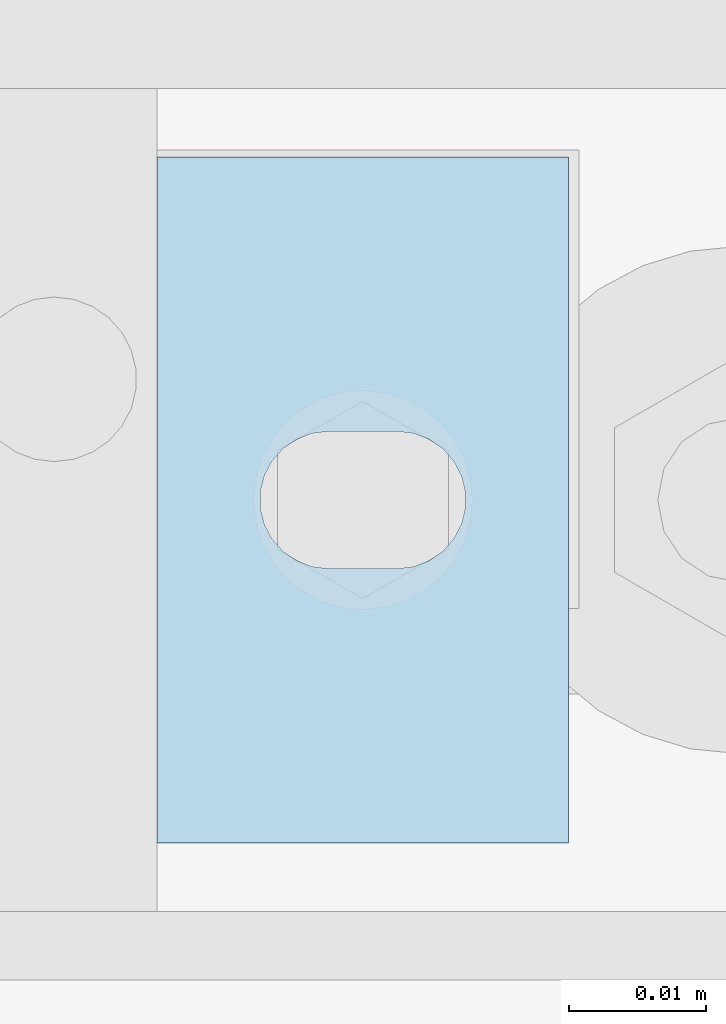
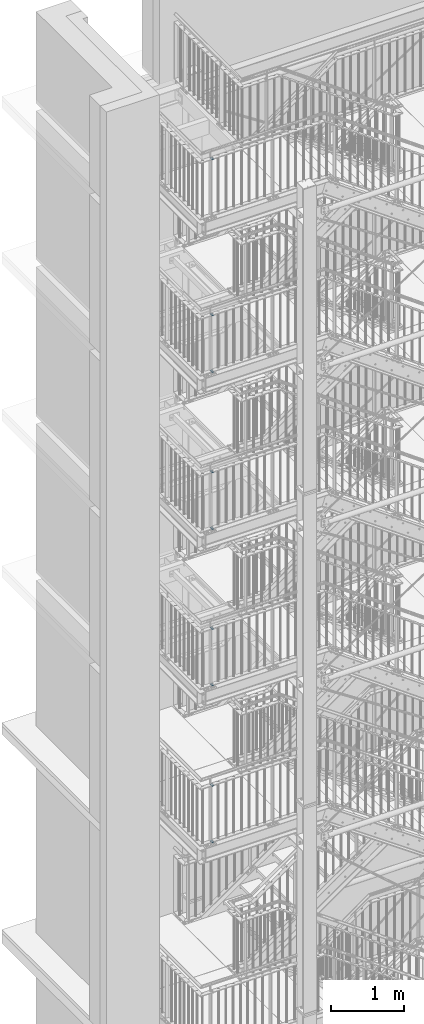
# One storey, part 221 of 831: 9 plates, 9 openings.
"""IFC2X3 building model written with IfcOpenShell, lengths in millimetres."""

from ifc_helpers import new_model, entity, si_unit, converted_unit, point, frame, frame_2d, origin, origin_with_axes, place, context, project, spatial, polyline, circle_curve, line_curve, trimmed, segment, composite_curve, outline, extrude, material, layer, layer_set, element, save


model = new_model("IFC2X3")

# Units and contexts
model_context = context("Model", 3, precision=1e-09, world=origin_with_axes())
ifc_project = project(units=[si_unit("LENGTHUNIT", "METRE", prefix="MILLI"), si_unit("AREAUNIT", "SQUARE_METRE"), si_unit("VOLUMEUNIT", "CUBIC_METRE"), converted_unit("PLANEANGLEUNIT", "DEGREE", entity("IfcPlaneAngleMeasure", 0.01745329), si_unit("PLANEANGLEUNIT", "RADIAN"), dimensions=[0, 0, 0, 0, 0, 0, 0])], contexts=[model_context])

# Site, building, storey
site_placement = place(None, origin_with_axes())
site = spatial("IfcSite", under=ifc_project, at=site_placement, Name="Site", CompositionType="ELEMENT")
building_placement = place(site_placement, origin_with_axes())
building = spatial("IfcBuilding", under=site, at=building_placement, Name="Struktur 1", CompositionType="ELEMENT")
storey_placement = place(building_placement, origin_with_axes())
storey = spatial("IfcBuildingStorey", under=building, at=storey_placement, Name="Default Storey", CompositionType="ELEMENT", Elevation=0.0)

# Plate, opening
ifc_material = material(Name="S235JR")
ifc_layer = layer(ifc_material, 6.0)
ifc_layer_set = layer_set([ifc_layer], Name="S235JR")
plate_1_placement = place(None, frame((3447.29154585, 4526.736971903, 18836.8), z_axis=(0.0, 0.0, 1.0), x_axis=(1.0, 0.0, 0.0)))
plate_1 = element("IfcPlate", 1, at=plate_1_placement, inside=storey, material=ifc_layer_set, Name="-", ObjectType="-", context=model_context, shape_type="SweptSolid", body=[
    extrude(outline(polyline([(-15.0, -25.0), (15.0, -25.0), (15.0, 25.0), (-15.0, 25.0), (-15.0, -25.0)])), origin_with_axes(), (0.0, 0.0, 1.0), 6.0),
])
opening_1_placement = place(plate_1_placement, frame((-1e-09, 0.0, -0.5), z_axis=(0.0, 0.0, 1.0), x_axis=(1.0, 0.0, 0.0)))
element("IfcOpeningElement", 2, at=opening_1_placement, cuts=plate_1, ObjectType="Opening", context=model_context, shape_type="SweptSolid", body=[
    extrude(outline(composite_curve([segment(trimmed(line_curve((-2.5, -5.001), (1.0, 0.0), 5.0), [point((-2.5, -5.001))], [point((2.5, -5.001))], True, "CARTESIAN"), True, "CONTINUOUS"), segment(trimmed(circle_curve(frame_2d((2.5, 0.0), x_axis=(1.0, 0.0)), 5.001), [point((2.5, -5.001))], [point((2.5, 5.001))], True, "CARTESIAN"), True, "CONTINUOUS"), segment(trimmed(line_curve((2.5, 5.001), (-1.0, 0.0), 5.0), [point((2.5, 5.001))], [point((-2.5, 5.001))], True, "CARTESIAN"), True, "CONTINUOUS"), segment(trimmed(circle_curve(frame_2d((-2.5, 0.0), x_axis=(1.0, 0.0)), 5.001), [point((-2.5, 5.001))], [point((-2.5, -5.001))], True, "CARTESIAN"), True, "CONTINUOUS")], self_intersect=False)), origin(), (0.0, 0.0, 1.0), 7.0),
])

plate_2_placement = place(None, frame((3447.29154585, 4526.736971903, 16216.8), z_axis=(0.0, 0.0, 1.0), x_axis=(1.0, 0.0, 0.0)))
plate_2 = element("IfcPlate", 3, at=plate_2_placement, inside=storey, material=ifc_layer_set, Name="-", ObjectType="-", context=model_context, shape_type="SweptSolid", body=[
    extrude(outline(polyline([(-15.0, -25.0), (15.0, -25.0), (15.0, 25.0), (-15.0, 25.0), (-15.0, -25.0)])), origin_with_axes(), (0.0, 0.0, 1.0), 6.0),
])
opening_2_placement = place(plate_2_placement, frame((-1e-09, 0.0, -0.5), z_axis=(0.0, 0.0, 1.0), x_axis=(1.0, 0.0, 0.0)))
element("IfcOpeningElement", 4, at=opening_2_placement, cuts=plate_2, ObjectType="Opening", context=model_context, shape_type="SweptSolid", body=[
    extrude(outline(composite_curve([segment(trimmed(line_curve((-2.5, -5.001), (1.0, 0.0), 5.0), [point((-2.5, -5.001))], [point((2.5, -5.001))], True, "CARTESIAN"), True, "CONTINUOUS"), segment(trimmed(circle_curve(frame_2d((2.5, 0.0), x_axis=(1.0, 0.0)), 5.001), [point((2.5, -5.001))], [point((2.5, 5.001))], True, "CARTESIAN"), True, "CONTINUOUS"), segment(trimmed(line_curve((2.5, 5.001), (-1.0, 0.0), 5.0), [point((2.5, 5.001))], [point((-2.5, 5.001))], True, "CARTESIAN"), True, "CONTINUOUS"), segment(trimmed(circle_curve(frame_2d((-2.5, 0.0), x_axis=(1.0, 0.0)), 5.001), [point((-2.5, 5.001))], [point((-2.5, -5.001))], True, "CARTESIAN"), True, "CONTINUOUS")], self_intersect=False)), origin(), (0.0, 0.0, 1.0), 7.0),
])

plate_3_placement = place(None, frame((3447.29154585, 4526.736971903, 15268.0), z_axis=(0.0, 0.0, 1.0), x_axis=(1.0, 0.0, 0.0)))
plate_3 = element("IfcPlate", 5, at=plate_3_placement, inside=storey, material=ifc_layer_set, Name="-", ObjectType="-", context=model_context, shape_type="SweptSolid", body=[
    extrude(outline(polyline([(-15.0, -25.0), (15.0, -25.0), (15.0, 25.0), (-15.0, 25.0), (-15.0, -25.0)])), origin_with_axes(), (0.0, 0.0, 1.0), 6.0),
])
opening_3_placement = place(plate_3_placement, frame((-1e-09, 0.0, -0.5), z_axis=(0.0, 0.0, 1.0), x_axis=(1.0, 0.0, 0.0)))
element("IfcOpeningElement", 6, at=opening_3_placement, cuts=plate_3, ObjectType="Opening", context=model_context, shape_type="SweptSolid", body=[
    extrude(outline(composite_curve([segment(trimmed(line_curve((-2.5, -5.001), (1.0, 0.0), 5.0), [point((-2.5, -5.001))], [point((2.5, -5.001))], True, "CARTESIAN"), True, "CONTINUOUS"), segment(trimmed(circle_curve(frame_2d((2.5, 0.0), x_axis=(1.0, 0.0)), 5.001), [point((2.5, -5.001))], [point((2.5, 5.001))], True, "CARTESIAN"), True, "CONTINUOUS"), segment(trimmed(line_curve((2.5, 5.001), (-1.0, 0.0), 5.0), [point((2.5, 5.001))], [point((-2.5, 5.001))], True, "CARTESIAN"), True, "CONTINUOUS"), segment(trimmed(circle_curve(frame_2d((-2.5, 0.0), x_axis=(1.0, 0.0)), 5.001), [point((-2.5, 5.001))], [point((-2.5, -5.001))], True, "CARTESIAN"), True, "CONTINUOUS")], self_intersect=False)), origin(), (0.0, 0.0, 1.0), 7.0),
])

plate_4_placement = place(None, frame((3447.29154585, 4526.736971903, 13581.8), z_axis=(0.0, 0.0, 1.0), x_axis=(1.0, 0.0, 0.0)))
plate_4 = element("IfcPlate", 7, at=plate_4_placement, inside=storey, material=ifc_layer_set, Name="-", ObjectType="-", context=model_context, shape_type="SweptSolid", body=[
    extrude(outline(polyline([(-15.0, -25.0), (15.0, -25.0), (15.0, 25.0), (-15.0, 25.0), (-15.0, -25.0)])), origin_with_axes(), (0.0, 0.0, 1.0), 6.0),
])
opening_4_placement = place(plate_4_placement, frame((-1e-09, 0.0, -0.5), z_axis=(0.0, 0.0, 1.0), x_axis=(1.0, 0.0, 0.0)))
element("IfcOpeningElement", 8, at=opening_4_placement, cuts=plate_4, ObjectType="Opening", context=model_context, shape_type="SweptSolid", body=[
    extrude(outline(composite_curve([segment(trimmed(line_curve((-2.5, -5.001), (1.0, 0.0), 5.0), [point((-2.5, -5.001))], [point((2.5, -5.001))], True, "CARTESIAN"), True, "CONTINUOUS"), segment(trimmed(circle_curve(frame_2d((2.5, 0.0), x_axis=(1.0, 0.0)), 5.001), [point((2.5, -5.001))], [point((2.5, 5.001))], True, "CARTESIAN"), True, "CONTINUOUS"), segment(trimmed(line_curve((2.5, 5.001), (-1.0, 0.0), 5.0), [point((2.5, 5.001))], [point((-2.5, 5.001))], True, "CARTESIAN"), True, "CONTINUOUS"), segment(trimmed(circle_curve(frame_2d((-2.5, 0.0), x_axis=(1.0, 0.0)), 5.001), [point((-2.5, 5.001))], [point((-2.5, -5.001))], True, "CARTESIAN"), True, "CONTINUOUS")], self_intersect=False)), origin(), (0.0, 0.0, 1.0), 7.0),
])

plate_5_placement = place(None, frame((3447.29154585, 4526.736971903, 12633.0), z_axis=(0.0, 0.0, 1.0), x_axis=(1.0, 0.0, 0.0)))
plate_5 = element("IfcPlate", 9, at=plate_5_placement, inside=storey, material=ifc_layer_set, Name="-", ObjectType="-", context=model_context, shape_type="SweptSolid", body=[
    extrude(outline(polyline([(-15.0, -25.0), (15.0, -25.0), (15.0, 25.0), (-15.0, 25.0), (-15.0, -25.0)])), origin_with_axes(), (0.0, 0.0, 1.0), 6.0),
])
opening_5_placement = place(plate_5_placement, frame((-1e-09, 0.0, -0.5), z_axis=(0.0, 0.0, 1.0), x_axis=(1.0, 0.0, 0.0)))
element("IfcOpeningElement", 10, at=opening_5_placement, cuts=plate_5, ObjectType="Opening", context=model_context, shape_type="SweptSolid", body=[
    extrude(outline(composite_curve([segment(trimmed(line_curve((-2.5, -5.001), (1.0, 0.0), 5.0), [point((-2.5, -5.001))], [point((2.5, -5.001))], True, "CARTESIAN"), True, "CONTINUOUS"), segment(trimmed(circle_curve(frame_2d((2.5, 0.0), x_axis=(1.0, 0.0)), 5.001), [point((2.5, -5.001))], [point((2.5, 5.001))], True, "CARTESIAN"), True, "CONTINUOUS"), segment(trimmed(line_curve((2.5, 5.001), (-1.0, 0.0), 5.0), [point((2.5, 5.001))], [point((-2.5, 5.001))], True, "CARTESIAN"), True, "CONTINUOUS"), segment(trimmed(circle_curve(frame_2d((-2.5, 0.0), x_axis=(1.0, 0.0)), 5.001), [point((-2.5, 5.001))], [point((-2.5, -5.001))], True, "CARTESIAN"), True, "CONTINUOUS")], self_intersect=False)), origin(), (0.0, 0.0, 1.0), 7.0),
])

plate_6_placement = place(None, frame((3447.29154585, 4526.736971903, 10954.8), z_axis=(0.0, 0.0, 1.0), x_axis=(1.0, 0.0, 0.0)))
plate_6 = element("IfcPlate", 11, at=plate_6_placement, inside=storey, material=ifc_layer_set, Name="-", ObjectType="-", context=model_context, shape_type="SweptSolid", body=[
    extrude(outline(polyline([(-15.0, -25.0), (15.0, -25.0), (15.0, 25.0), (-15.0, 25.0), (-15.0, -25.0)])), origin_with_axes(), (0.0, 0.0, 1.0), 6.0),
])
opening_6_placement = place(plate_6_placement, frame((-1e-09, 0.0, -0.5), z_axis=(0.0, 0.0, 1.0), x_axis=(1.0, 0.0, 0.0)))
element("IfcOpeningElement", 12, at=opening_6_placement, cuts=plate_6, ObjectType="Opening", context=model_context, shape_type="SweptSolid", body=[
    extrude(outline(composite_curve([segment(trimmed(line_curve((-2.5, -5.001), (1.0, 0.0), 5.0), [point((-2.5, -5.001))], [point((2.5, -5.001))], True, "CARTESIAN"), True, "CONTINUOUS"), segment(trimmed(circle_curve(frame_2d((2.5, 0.0), x_axis=(1.0, 0.0)), 5.001), [point((2.5, -5.001))], [point((2.5, 5.001))], True, "CARTESIAN"), True, "CONTINUOUS"), segment(trimmed(line_curve((2.5, 5.001), (-1.0, 0.0), 5.0), [point((2.5, 5.001))], [point((-2.5, 5.001))], True, "CARTESIAN"), True, "CONTINUOUS"), segment(trimmed(circle_curve(frame_2d((-2.5, 0.0), x_axis=(1.0, 0.0)), 5.001), [point((-2.5, 5.001))], [point((-2.5, -5.001))], True, "CARTESIAN"), True, "CONTINUOUS")], self_intersect=False)), origin(), (0.0, 0.0, 1.0), 7.0),
])

plate_7_placement = place(None, frame((3447.29154585, 4526.736971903, 10006.0), z_axis=(0.0, 0.0, 1.0), x_axis=(1.0, 0.0, 0.0)))
plate_7 = element("IfcPlate", 13, at=plate_7_placement, inside=storey, material=ifc_layer_set, Name="-", ObjectType="-", context=model_context, shape_type="SweptSolid", body=[
    extrude(outline(polyline([(-15.0, -25.0), (15.0, -25.0), (15.0, 25.0), (-15.0, 25.0), (-15.0, -25.0)])), origin_with_axes(), (0.0, 0.0, 1.0), 6.0),
])
opening_7_placement = place(plate_7_placement, frame((-1e-09, 0.0, -0.5), z_axis=(0.0, 0.0, 1.0), x_axis=(1.0, 0.0, 0.0)))
element("IfcOpeningElement", 14, at=opening_7_placement, cuts=plate_7, ObjectType="Opening", context=model_context, shape_type="SweptSolid", body=[
    extrude(outline(composite_curve([segment(trimmed(line_curve((-2.5, -5.001), (1.0, 0.0), 5.0), [point((-2.5, -5.001))], [point((2.5, -5.001))], True, "CARTESIAN"), True, "CONTINUOUS"), segment(trimmed(circle_curve(frame_2d((2.5, 0.0), x_axis=(1.0, 0.0)), 5.001), [point((2.5, -5.001))], [point((2.5, 5.001))], True, "CARTESIAN"), True, "CONTINUOUS"), segment(trimmed(line_curve((2.5, 5.001), (-1.0, 0.0), 5.0), [point((2.5, 5.001))], [point((-2.5, 5.001))], True, "CARTESIAN"), True, "CONTINUOUS"), segment(trimmed(circle_curve(frame_2d((-2.5, 0.0), x_axis=(1.0, 0.0)), 5.001), [point((-2.5, 5.001))], [point((-2.5, -5.001))], True, "CARTESIAN"), True, "CONTINUOUS")], self_intersect=False)), origin(), (0.0, 0.0, 1.0), 7.0),
])

plate_8_placement = place(None, frame((3447.29154585, 4526.736971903, 8322.8), z_axis=(0.0, 0.0, 1.0), x_axis=(1.0, 0.0, 0.0)))
plate_8 = element("IfcPlate", 15, at=plate_8_placement, inside=storey, material=ifc_layer_set, Name="-", ObjectType="-", context=model_context, shape_type="SweptSolid", body=[
    extrude(outline(polyline([(-15.0, -25.0), (15.0, -25.0), (15.0, 25.0), (-15.0, 25.0), (-15.0, -25.0)])), origin_with_axes(), (0.0, 0.0, 1.0), 6.0),
])
opening_8_placement = place(plate_8_placement, frame((-1e-09, 0.0, -0.5), z_axis=(0.0, 0.0, 1.0), x_axis=(1.0, 0.0, 0.0)))
element("IfcOpeningElement", 16, at=opening_8_placement, cuts=plate_8, ObjectType="Opening", context=model_context, shape_type="SweptSolid", body=[
    extrude(outline(composite_curve([segment(trimmed(line_curve((-2.5, -5.001), (1.0, 0.0), 5.0), [point((-2.5, -5.001))], [point((2.5, -5.001))], True, "CARTESIAN"), True, "CONTINUOUS"), segment(trimmed(circle_curve(frame_2d((2.5, 0.0), x_axis=(1.0, 0.0)), 5.001), [point((2.5, -5.001))], [point((2.5, 5.001))], True, "CARTESIAN"), True, "CONTINUOUS"), segment(trimmed(line_curve((2.5, 5.001), (-1.0, 0.0), 5.0), [point((2.5, 5.001))], [point((-2.5, 5.001))], True, "CARTESIAN"), True, "CONTINUOUS"), segment(trimmed(circle_curve(frame_2d((-2.5, 0.0), x_axis=(1.0, 0.0)), 5.001), [point((-2.5, 5.001))], [point((-2.5, -5.001))], True, "CARTESIAN"), True, "CONTINUOUS")], self_intersect=False)), origin(), (0.0, 0.0, 1.0), 7.0),
])

plate_9_placement = place(None, frame((3447.29154585, 4526.736971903, 7374.0), z_axis=(0.0, 0.0, 1.0), x_axis=(1.0, 0.0, 0.0)))
plate_9 = element("IfcPlate", 17, at=plate_9_placement, inside=storey, material=ifc_layer_set, Name="-", ObjectType="-", context=model_context, shape_type="SweptSolid", body=[
    extrude(outline(polyline([(-15.0, -25.0), (15.0, -25.0), (15.0, 25.0), (-15.0, 25.0), (-15.0, -25.0)])), origin_with_axes(), (0.0, 0.0, 1.0), 6.0),
])
opening_9_placement = place(plate_9_placement, frame((-1e-09, 0.0, -0.5), z_axis=(0.0, 0.0, 1.0), x_axis=(1.0, 0.0, 0.0)))
element("IfcOpeningElement", 18, at=opening_9_placement, cuts=plate_9, ObjectType="Opening", context=model_context, shape_type="SweptSolid", body=[
    extrude(outline(composite_curve([segment(trimmed(line_curve((-2.5, -5.001), (1.0, 0.0), 5.0), [point((-2.5, -5.001))], [point((2.5, -5.001))], True, "CARTESIAN"), True, "CONTINUOUS"), segment(trimmed(circle_curve(frame_2d((2.5, 0.0), x_axis=(1.0, 0.0)), 5.001), [point((2.5, -5.001))], [point((2.5, 5.001))], True, "CARTESIAN"), True, "CONTINUOUS"), segment(trimmed(line_curve((2.5, 5.001), (-1.0, 0.0), 5.0), [point((2.5, 5.001))], [point((-2.5, 5.001))], True, "CARTESIAN"), True, "CONTINUOUS"), segment(trimmed(circle_curve(frame_2d((-2.5, 0.0), x_axis=(1.0, 0.0)), 5.001), [point((-2.5, 5.001))], [point((-2.5, -5.001))], True, "CARTESIAN"), True, "CONTINUOUS")], self_intersect=False)), origin(), (0.0, 0.0, 1.0), 7.0),
])

save(model, "model.ifc")
